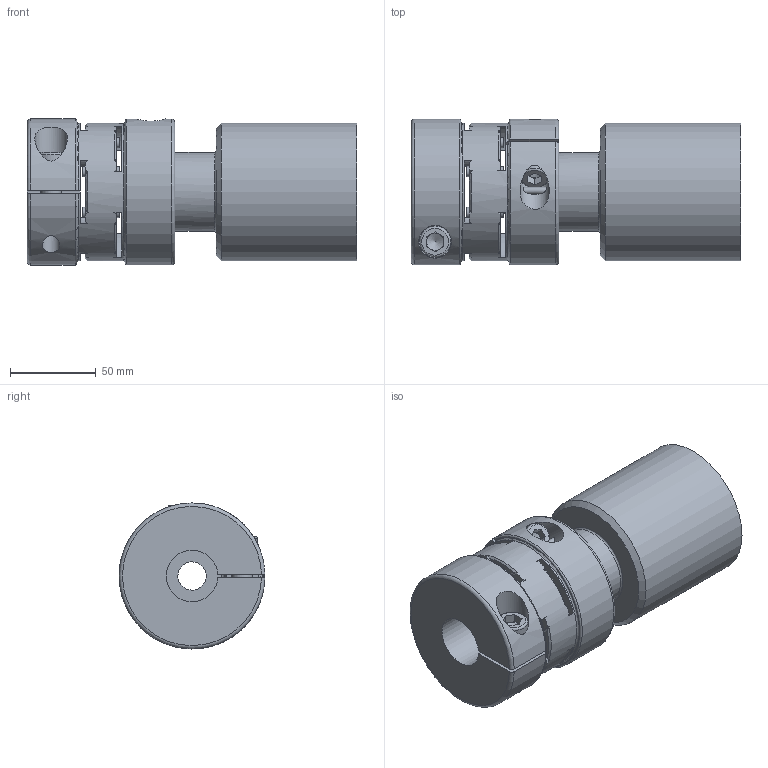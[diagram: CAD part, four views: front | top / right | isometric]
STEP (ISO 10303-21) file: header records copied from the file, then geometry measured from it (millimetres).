
FILE_DESCRIPTION( ( 'Unknown' ), '1' );
FILE_NAME( 'F:/JAKOB-STEP+IGES-Dateien/STEP-Dateien/EKZ/EKZ 400.stp', 'Unknown', ( 'Unknown' ), ( 'Unknown' ), 'PSStep 10.1', 'Unknown', ' ' );
FILE_SCHEMA( ( 'AUTOMOTIVE_DESIGN { 1 0 10303 214 1 1 1 1 }' ) );
Length unit declared in the file: millimetre
Products named in the file (1): 22720379
Bounding box: 192 x 84.99 x 84.99 mm (x, y, z)
Volume: 505667.2 mm3; surface area: 115301.1 mm2
Topology: 1 solids, 1 shells, 243 faces, 692 edges, 450 vertices
Faces by surface type: cylinder 96, cone 70, plane 66, torus 11
Full cylindrical faces by diameter (mm): 6 x8, 8.5 x1, 10 x1, 10.2 x1, 10.5 x1, 12 x1, 12.5 x1, 13 x1, 16 x1, 16.5 x1, 17 x1, 18 x1, 19 x1, 36 x1, 38 x2, 46 x1, 64 x1, 74 x1, 80 x2
Entity records: 10456 total; most frequent: CARTESIAN_POINT 2540, ORIENTED_EDGE 1242, DIRECTION 1226, EDGE_CURVE 621, AXIS2_PLACEMENT_3D 529, VERTEX_POINT 425, EDGE_LOOP 320, CIRCLE 286
